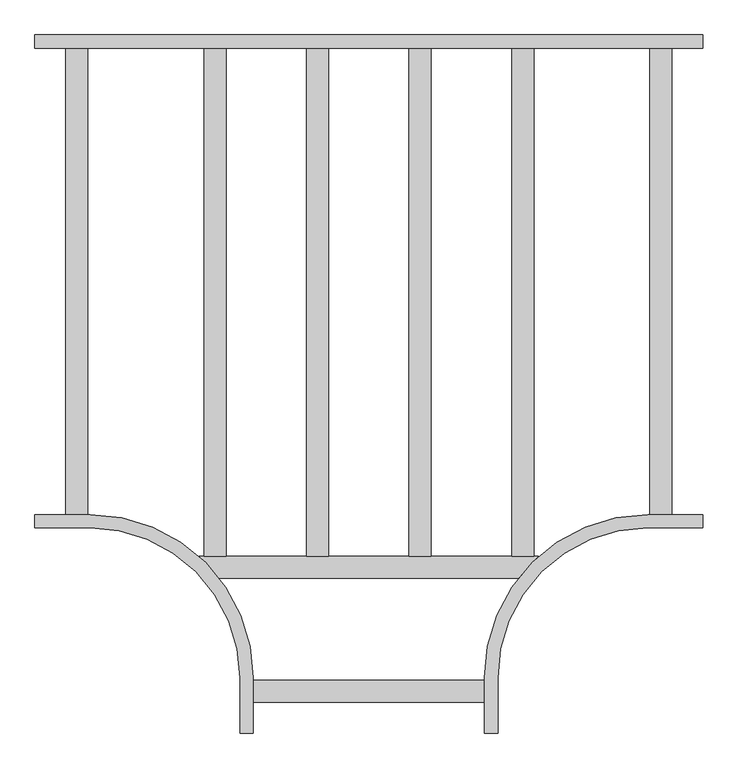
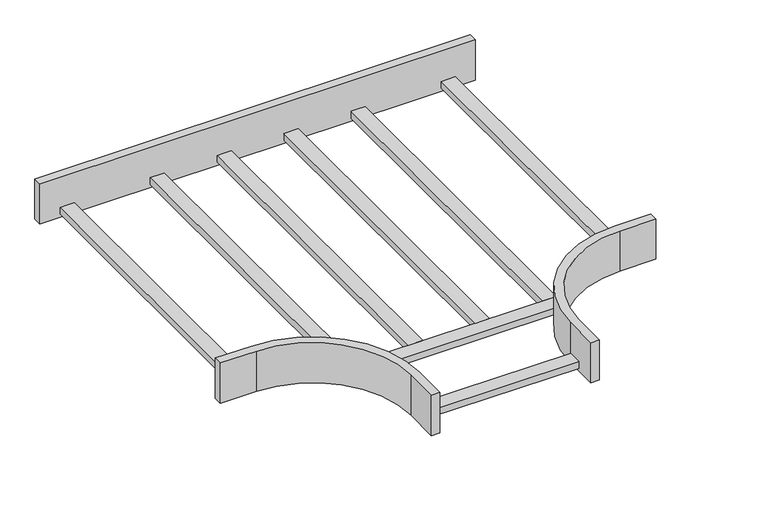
"""IFC4 building model written with IfcOpenShell, lengths in millimetres: cable carrier fitting geometry, Legrand_CableLadder_Swifts_Sapphire_Tee-300R-13 : Hot Dip Galvanised (after manufacture)."""

import ifcopenshell
import ifcopenshell.guid

model = None  # the IFC model being written
_history = None  # IfcOwnerHistory: only IFC2X3 demands one
_inside = {}  # id of a spatial element -> (the spatial element, [elements in it])
_under = {}  # id of a project, library or spatial element -> (it, [spatial elements below it])
_declared = {}  # id of a project -> (the project, [libraries it declares])
_typed = {}  # id of a type object -> (the type object, [elements of that type])
_made_of = {}  # id of a material, layer set ... -> (it, [elements and type objects made of it])


def new_model(schema):
    """Start an empty IFC model of exactly this schema.

    Asked for "IFC4X3", IfcOpenShell would pick the latest addendum, in which some entities
    have other attributes; the version numbers below select the first issue.
    IFC2X3 requires an IfcOwnerHistory on every rooted entity: one is made here for all.
    """
    global model, _history
    if schema == "IFC4X3":
        model = ifcopenshell.file(schema_version=(4, 3, 0, 0))
    else:
        model = ifcopenshell.file(schema=schema)
    _inside.clear()
    _under.clear()
    _declared.clear()
    _typed.clear()
    _made_of.clear()
    _history = None
    if model.schema == "IFC2X3":
        org = make("IfcOrganization", Name="unknown")
        user = make(
            "IfcPersonAndOrganization",
            ThePerson=make("IfcPerson", FamilyName="unknown"),
            TheOrganization=org,
        )
        app = make(
            "IfcApplication",
            ApplicationDeveloper=org,
            Version="unknown",
            ApplicationFullName="unknown",
            ApplicationIdentifier="unknown",
        )
        _history = make(
            "IfcOwnerHistory",
            OwningUser=user,
            OwningApplication=app,
            ChangeAction="ADDED",
            CreationDate=0,
        )
    return model


def make(cls, **values):
    """One entity of the class cls with the attributes given. An attribute that is None is left unset."""
    return model.create_entity(
        cls, **{name: value for name, value in values.items() if value is not None}
    )


def rooted(cls, **values):
    """An entity with a GlobalId (a new one), such as an element, a storey or a relation."""
    return make(cls, GlobalId=ifcopenshell.guid.new(), OwnerHistory=_history, **values)


def si_unit(unit_type, name, prefix=None):
    """IfcSIUnit, for example si_unit("LENGTHUNIT", "METRE", prefix="MILLI")."""
    return make("IfcSIUnit", UnitType=unit_type, Prefix=prefix, Name=name)


def assignment(units):
    """IfcUnitAssignment: the units of a project."""
    return None if units is None else make("IfcUnitAssignment", Units=units)


def point(xyz):
    """IfcCartesianPoint."""
    return None if xyz is None else make("IfcCartesianPoint", Coordinates=xyz)


def direction(xyz):
    """IfcDirection."""
    return None if xyz is None else make("IfcDirection", DirectionRatios=xyz)


def frame(location, z_axis=None, x_axis=None):
    """IfcAxis2Placement3D, a coordinate frame: its origin and axes. An axis left out is left unset."""
    return make(
        "IfcAxis2Placement3D",
        Location=point(location),
        Axis=direction(z_axis),
        RefDirection=direction(x_axis),
    )


def frame_2d(location, x_axis=None):
    """IfcAxis2Placement2D, a coordinate frame in the plane: its origin and x axis."""
    return make(
        "IfcAxis2Placement2D", Location=point(location), RefDirection=direction(x_axis)
    )


def origin():
    """The frame at (0, 0, 0) with its axes left unset."""
    return frame((0.0, 0.0, 0.0))


def place(relative_to, where):
    """IfcLocalPlacement: puts the frame where relative to a parent placement (None: the world)."""
    return make(
        "IfcLocalPlacement", PlacementRelTo=relative_to, RelativePlacement=where
    )


def context(
    kind, dimensions, precision=None, world=None, true_north=None, identifier=None
):
    """IfcGeometricRepresentationContext, for example the 3D "Model" context."""
    return make(
        "IfcGeometricRepresentationContext",
        ContextIdentifier=identifier,
        ContextType=kind,
        CoordinateSpaceDimension=dimensions,
        Precision=precision,
        WorldCoordinateSystem=world,
        TrueNorth=true_north,
    )


def project(units=None, contexts=None):
    """IfcProject with its units and contexts."""
    return rooted(
        "IfcProject",
        Name="project",
        RepresentationContexts=contexts,
        UnitsInContext=assignment(units),
    )


def spatial(cls, under=None, at=None, **own):
    """A site, building, storey or space (cls), placed at a placement, below another one or the project."""
    s = rooted(cls, ObjectPlacement=at, **own)
    if under is not None:
        _under.setdefault(under.id(), (under, []))[1].append(s)
    return s


def polyline(points):
    """IfcPolyline through the points."""
    return make("IfcPolyline", Points=[point(p) for p in points])


def circle_curve(where, radius):
    """IfcCircle in the frame where."""
    return make("IfcCircle", Position=where, Radius=radius)


def trimmed(basis, trim1, trim2, sense, master):
    """IfcTrimmedCurve: the piece of a basis curve between two trims."""
    return make(
        "IfcTrimmedCurve",
        BasisCurve=basis,
        Trim1=trim1,
        Trim2=trim2,
        SenseAgreement=sense,
        MasterRepresentation=master,
    )


def segment(curve, same_sense, transition):
    """IfcCompositeCurveSegment."""
    return make(
        "IfcCompositeCurveSegment",
        Transition=transition,
        SameSense=same_sense,
        ParentCurve=curve,
    )


def composite_curve(segments, self_intersect=None):
    """IfcCompositeCurve: segments joined end to end."""
    return make("IfcCompositeCurve", Segments=segments, SelfIntersect=self_intersect)


def outline(outer, holes=None, kind="AREA"):
    """IfcArbitraryClosedProfileDef: a profile drawn as a closed curve; with holes, ...WithVoids."""
    if holes is None:
        return make("IfcArbitraryClosedProfileDef", ProfileType=kind, OuterCurve=outer)
    return make(
        "IfcArbitraryProfileDefWithVoids",
        ProfileType=kind,
        OuterCurve=outer,
        InnerCurves=holes,
    )


def extrude(swept, where, along, depth):
    """IfcExtrudedAreaSolid: the profile swept, set in the frame where, extruded along a direction by depth."""
    return make(
        "IfcExtrudedAreaSolid",
        SweptArea=swept,
        Position=where,
        ExtrudedDirection=direction(along),
        Depth=depth,
    )


def shape(context_of_items, identifier, shape_type, items):
    """IfcShapeRepresentation: the items that make up one representation, for example the "Body"."""
    return make(
        "IfcShapeRepresentation",
        ContextOfItems=context_of_items,
        RepresentationIdentifier=identifier,
        RepresentationType=shape_type,
        Items=items,
    )


def source(mapping_origin, context_of_items, identifier, shape_type, items):
    """IfcRepresentationMap: a shape defined once, which mapped items show again and again."""
    return make(
        "IfcRepresentationMap",
        MappingOrigin=mapping_origin,
        MappedRepresentation=shape(context_of_items, identifier, shape_type, items),
    )


def transform(
    local_origin,
    x_axis=None,
    y_axis=None,
    z_axis=None,
    scale=None,
    scale2=None,
    scale3=None,
    uniform=True,
):
    """IfcCartesianTransformationOperator3D, or its non-uniform kind. x_axis, y_axis, z_axis: its Axis1, 2, 3."""
    if uniform:
        return make(
            "IfcCartesianTransformationOperator3D",
            Axis1=direction(x_axis),
            Axis2=direction(y_axis),
            LocalOrigin=point(local_origin),
            Scale=scale,
            Axis3=direction(z_axis),
        )
    return make(
        "IfcCartesianTransformationOperator3DnonUniform",
        Axis1=direction(x_axis),
        Axis2=direction(y_axis),
        LocalOrigin=point(local_origin),
        Scale=scale,
        Axis3=direction(z_axis),
        Scale2=scale2,
        Scale3=scale3,
    )


def mapped(mapping_source, mapping_target):
    """IfcMappedItem: shows the shape of a source again, moved by a transform."""
    return make(
        "IfcMappedItem", MappingSource=mapping_source, MappingTarget=mapping_target
    )


def made_of(thing, what):
    """Note that an element or type object is made of a material, layer set ...; save() writes the relation."""
    if what is not None:
        _made_of.setdefault(what.id(), (what, []))[1].append(thing)
    return thing


def element(
    cls,
    number,
    at=None,
    inside=None,
    cuts=None,
    type_object=None,
    material=None,
    context=None,
    identifier="Body",
    shape_type=None,
    held_by="IfcProductDefinitionShape",
    body=None,
    shapes=None,
    **own,
):
    """One element of the class cls, such as IfcWall. Its Tag is "e" and its number.

    at: its placement. inside: the storey or other place that contains it. cuts: it is an
    opening in that element (IfcRelVoidsElement). A single representation is given by context,
    identifier, shape_type and body (its items); several are given by shapes. held_by: the class
    of the entity that holds the representations. save() writes the other relations.
    """
    e = rooted(cls, Tag="e%d" % number, ObjectPlacement=at, **own)
    if body is not None:
        shapes = [shape(context, identifier, shape_type, body)]
    if shapes is not None:
        e.Representation = make(held_by, Representations=shapes)
    if inside is not None:
        _inside.setdefault(inside.id(), (inside, []))[1].append(e)
    if cuts is not None:
        rooted(
            "IfcRelVoidsElement", RelatingBuildingElement=cuts, RelatedOpeningElement=e
        )
    if type_object is not None:
        _typed.setdefault(type_object.id(), (type_object, []))[1].append(e)
    return made_of(e, material)


def aggregate(whole, parts):
    """IfcRelAggregates: a whole, such as a stair, and the parts it consists of."""
    return rooted("IfcRelAggregates", RelatingObject=whole, RelatedObjects=parts)


def save(model, path):
    """Write the relations noted so far, then the file.

    IfcRelAggregates (storeys below a building ...), IfcRelContainedInSpatialStructure (elements
    in a storey), IfcRelDefinesByType, IfcRelAssociatesMaterial and IfcRelDeclares: one each for
    every whole, place, type object, material and project.
    """
    for whole, parts in _under.values():
        aggregate(whole, parts)
    for where, things in _inside.values():
        rooted(
            "IfcRelContainedInSpatialStructure",
            RelatedElements=things,
            RelatingStructure=where,
        )
    for kind, things in _typed.values():
        rooted("IfcRelDefinesByType", RelatedObjects=things, RelatingType=kind)
    for what, things in _made_of.values():
        rooted("IfcRelAssociatesMaterial", RelatedObjects=things, RelatingMaterial=what)
    for by, libraries in _declared.values():
        rooted("IfcRelDeclares", RelatingContext=by, RelatedDefinitions=libraries)
    model.write(path)


def cable_carrier_fitting_13c8b803(model_context):
    return source(origin(), model_context, "Body", "SweptSolid", [
        extrude(outline(polyline([(-273.875, 446.5), (-273.875, -526.5), (-315.875, -526.5), (-315.875, 446.5), (-273.875, 446.5)])), frame((0.0, 0.0, -52.5), z_axis=(0.0, 0.0, 1.0), x_axis=(1.0, 0.0, 0.0)), (0.0, 0.0, 1.0), 21.0),
        extrude(outline(polyline([(273.875, 446.5), (315.875, 446.5), (315.875, -526.5), (273.875, -526.5), (273.875, 446.5)])), frame((0.0, 0.0, -52.5), z_axis=(0.0, 0.0, 1.0), x_axis=(1.0, 0.0, 0.0)), (0.0, 0.0, 1.0), 21.0),
        extrude(outline(polyline([(-119.2916667, -526.5), (-119.2916667, 446.5), (-77.2916667, 446.5), (-77.2916667, -526.5), (-119.2916667, -526.5)])), frame((0.0, 0.0, -52.5), z_axis=(0.0, 0.0, 1.0), x_axis=(1.0, 0.0, 0.0)), (0.0, 0.0, 1.0), 21.0),
        extrude(outline(polyline([(77.2916667, -526.5), (77.2916667, 446.5), (119.2916667, 446.5), (119.2916667, -526.5), (77.2916667, -526.5)])), frame((0.0, 0.0, -52.5), z_axis=(0.0, 0.0, 1.0), x_axis=(1.0, 0.0, 0.0)), (0.0, 0.0, 1.0), 21.0),
        extrude(outline(polyline([(221.5, -763.75), (221.5, -805.75), (-221.5, -805.75), (-221.5, -763.75), (221.5, -763.75)])), frame((0.0, 0.0, -52.5), z_axis=(0.0, 0.0, 1.0), x_axis=(1.0, 0.0, 0.0)), (0.0, 0.0, 1.0), 21.0),
        extrude(outline(polyline([(-580.75, -446.5), (-580.75, 446.5), (-538.75, 446.5), (-538.75, -446.5), (-580.75, -446.5)])), frame((0.0, 0.0, -52.5), z_axis=(0.0, 0.0, 1.0), x_axis=(1.0, 0.0, 0.0)), (0.0, 0.0, 1.0), 21.0),
        extrude(outline(polyline([(580.75, -446.5), (538.75, -446.5), (538.75, 446.5), (580.75, 446.5), (580.75, -446.5)])), frame((0.0, 0.0, -52.5), z_axis=(0.0, 0.0, 1.0), x_axis=(1.0, 0.0, 0.0)), (0.0, 0.0, 1.0), 21.0),
        extrude(outline(composite_curve([segment(polyline([(286.4052906, -568.5), (-286.4052906, -568.5)]), True, "CONTINUOUS"), segment(trimmed(circle_curve(frame_2d((-534.25, -759.25)), 312.75), [point((-286.4052906, -568.5))], [point((-325.3481092, -526.5))], True, "CARTESIAN"), True, "CONTINUOUS"), segment(polyline([(-325.3481092, -526.5), (325.3481092, -526.5)]), True, "CONTINUOUS"), segment(trimmed(circle_curve(frame_2d((534.25, -759.25)), 312.75), [point((325.3481092, -526.5))], [point((286.4052906, -568.5))], True, "CARTESIAN"), True, "CONTINUOUS")], self_intersect=False)), frame((0.0, 0.0, -52.5), z_axis=(0.0, 0.0, 1.0), x_axis=(1.0, 0.0, 0.0)), (0.0, 0.0, 1.0), 21.0),
        extrude(outline(composite_curve([segment(polyline([(639.75, -446.5), (639.75, -472.0), (534.25, -472.0)]), True, "CONTINUOUS"), segment(trimmed(circle_curve(frame_2d((534.25, -759.25)), 287.25), [point((534.25, -472.0))], [point((247.0, -759.25))], True, "CARTESIAN"), True, "CONTINUOUS"), segment(polyline([(247.0, -759.25), (247.0, -864.75), (221.5, -864.75), (221.5, -759.25)]), True, "CONTINUOUS"), segment(trimmed(circle_curve(frame_2d((534.25, -759.25)), 312.75), [point((221.5, -759.25))], [point((534.25, -446.5))], False, "CARTESIAN"), True, "CONTINUOUS"), segment(polyline([(534.25, -446.5), (639.75, -446.5)]), True, "CONTINUOUS")], self_intersect=False)), frame((0.0, 0.0, -62.5), z_axis=(0.0, 0.0, 1.0), x_axis=(1.0, 0.0, 0.0)), (0.0, 0.0, 1.0), 125.0),
        extrude(outline(composite_curve([segment(polyline([(-639.75, -472.0), (-639.75, -446.5), (-534.25, -446.5)]), True, "CONTINUOUS"), segment(trimmed(circle_curve(frame_2d((-534.25, -759.25)), 312.75), [point((-534.25, -446.5))], [point((-221.5, -759.25))], False, "CARTESIAN"), True, "CONTINUOUS"), segment(polyline([(-221.5, -759.25), (-221.5, -864.75), (-247.0, -864.75), (-247.0, -759.25)]), True, "CONTINUOUS"), segment(trimmed(circle_curve(frame_2d((-534.25, -759.25)), 287.25), [point((-247.0, -759.25))], [point((-534.25, -472.0))], True, "CARTESIAN"), True, "CONTINUOUS"), segment(polyline([(-534.25, -472.0), (-639.75, -472.0)]), True, "CONTINUOUS")], self_intersect=False)), frame((0.0, 0.0, -62.5), z_axis=(0.0, 0.0, 1.0), x_axis=(1.0, 0.0, 0.0)), (0.0, 0.0, 1.0), 125.0),
        extrude(outline(polyline([(-639.75, 446.5), (-639.75, 472.0), (639.75, 472.0), (639.75, 446.5), (-639.75, 446.5)])), frame((0.0, 0.0, -62.5), z_axis=(0.0, 0.0, 1.0), x_axis=(1.0, 0.0, 0.0)), (0.0, 0.0, 1.0), 125.0),
    ])


if __name__ == "__main__":
    model = new_model("IFC4")
    model_context = context("Model", 3, world=origin())
    ifc_project = project(units=[si_unit("LENGTHUNIT", "METRE", prefix="MILLI")], contexts=[model_context])
    site = spatial("IfcSite", under=ifc_project)
    building = spatial("IfcBuilding", under=site)
    placement = place(None, origin())
    cable_carrier_fitting_shape = cable_carrier_fitting_13c8b803(model_context)
    element("IfcCableCarrierFitting", 1, ObjectType="Legrand_CableLadder_Swifts_Sapphire_Tee-300R-13 : Hot Dip Galvanised (after manufacture)", at=placement, inside=building, context=model_context, shape_type="MappedRepresentation", body=[
        mapped(cable_carrier_fitting_shape, transform((0.0, 0.0, 0.0), x_axis=(1.0, 0.0, 0.0), y_axis=(0.0, 1.0, 0.0), z_axis=(0.0, 0.0, 1.0))),
    ])
    save(model, "model.ifc")
